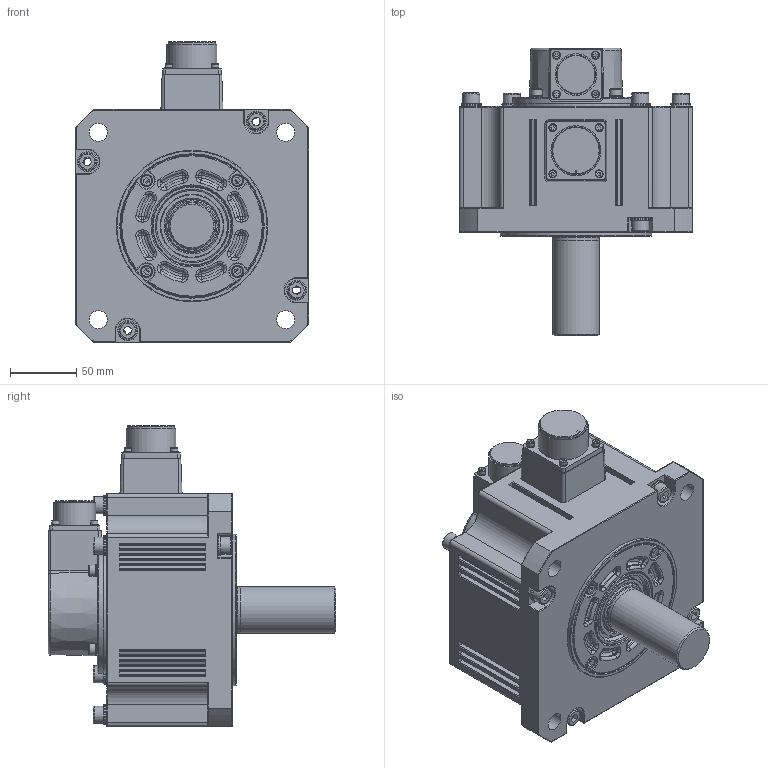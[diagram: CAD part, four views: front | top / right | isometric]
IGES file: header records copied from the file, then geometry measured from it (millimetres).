
Global section: file name: 7HNo Iges File Name specified; native system: AutoDesk Inventor R12.0; preprocessor: AutoDesk Inventor Iges Exporter R12.0; author: No Author specified; organization: No Organization specified; date: 20160715.184524; units: millimetre
Bounding box: 176 x 217 x 227.3 mm (x, y, z)
Volume: 3043334.2 mm3; surface area: 189186.2 mm2
Topology: 1 solids, 1 shells, 953 faces, 2205 edges, 1333 vertices
Faces by surface type: plane 369, cylinder 209, revolution 193, torus 146, cone 24, sphere 8, bspline 4
Full cylindrical faces by diameter (mm): 5.5 x8, 6 x8, 8.5 x8, 9 x8, 13 x8, 15 x8, 29.5 x1, 31.5 x1, 34.8 x1, 35 x1, 36 x1, 37.7 x1, 40 x1, 47.112 x2, 60 x1, 95.8 x1, 114.3 x1
